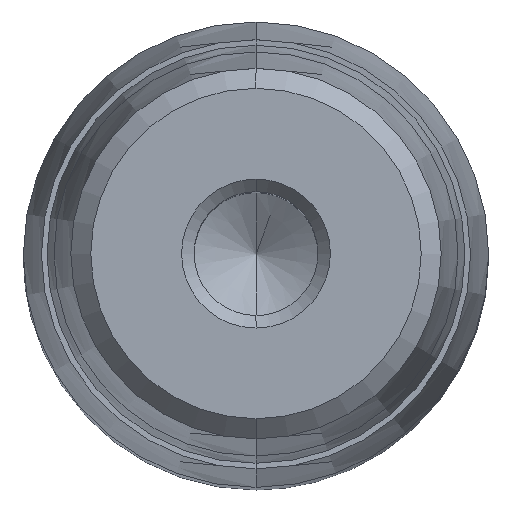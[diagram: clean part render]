
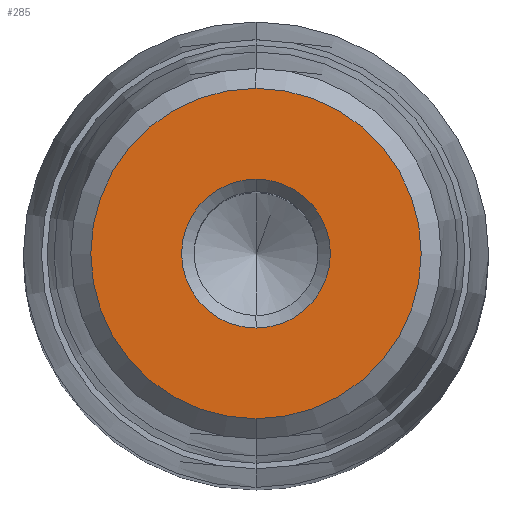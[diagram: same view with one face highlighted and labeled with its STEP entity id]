
A CAD part, top view. The second image highlights one B-rep face of the part: STEP entity #285.
In plain terms, the highlighted planar face has unit normal (0, 0, 1).
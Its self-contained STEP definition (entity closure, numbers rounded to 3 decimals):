
#164=CARTESIAN_POINT('Axis2P3D Location',(0.,0.,35.)) ;
#168=CARTESIAN_POINT('Vertex',(4.,0.,35.)) ;
#170=CARTESIAN_POINT('Vertex',(0.,-4.,35.)) ;
#173=CARTESIAN_POINT('Axis2P3D Location',(0.,0.,35.)) ;
#177=CARTESIAN_POINT('Vertex',(0.,4.,35.)) ;
#228=CARTESIAN_POINT('Axis2P3D Location',(0.,4.,35.)) ;
#233=CARTESIAN_POINT('Axis2P3D Location',(0.,0.,35.)) ;
#237=CARTESIAN_POINT('Vertex',(0.,8.875,35.)) ;
#239=CARTESIAN_POINT('Vertex',(8.875,0.,35.)) ;
#242=CARTESIAN_POINT('Axis2P3D Location',(0.,0.,35.)) ;
#246=CARTESIAN_POINT('Vertex',(-8.875,0.,35.)) ;
#249=CARTESIAN_POINT('Axis2P3D Location',(0.,0.,35.)) ;
#253=CARTESIAN_POINT('Vertex',(0.,-8.875,35.)) ;
#256=CARTESIAN_POINT('Axis2P3D Location',(0.,0.,35.)) ;
#267=CARTESIAN_POINT('Axis2P3D Location',(0.,0.,35.)) ;
#271=CARTESIAN_POINT('Vertex',(-4.,0.,35.)) ;
#274=CARTESIAN_POINT('Axis2P3D Location',(0.,0.,35.)) ;
#165=DIRECTION('Axis2P3D Direction',(-0.,0.,1.)) ;
#174=DIRECTION('Axis2P3D Direction',(-0.,0.,1.)) ;
#229=DIRECTION('Axis2P3D Direction',(0.,0.,-1.)) ;
#230=DIRECTION('Axis2P3D XDirection',(0.,1.,0.)) ;
#234=DIRECTION('Axis2P3D Direction',(0.,0.,-1.)) ;
#243=DIRECTION('Axis2P3D Direction',(0.,0.,-1.)) ;
#250=DIRECTION('Axis2P3D Direction',(0.,0.,-1.)) ;
#257=DIRECTION('Axis2P3D Direction',(0.,0.,-1.)) ;
#268=DIRECTION('Axis2P3D Direction',(0.,0.,-1.)) ;
#275=DIRECTION('Axis2P3D Direction',(0.,0.,-1.)) ;
#166=AXIS2_PLACEMENT_3D('Circle Axis2P3D',#164,#165,$) ;
#175=AXIS2_PLACEMENT_3D('Circle Axis2P3D',#173,#174,$) ;
#231=AXIS2_PLACEMENT_3D('Plane Axis2P3D',#228,#229,#230) ;
#235=AXIS2_PLACEMENT_3D('Circle Axis2P3D',#233,#234,$) ;
#244=AXIS2_PLACEMENT_3D('Circle Axis2P3D',#242,#243,$) ;
#251=AXIS2_PLACEMENT_3D('Circle Axis2P3D',#249,#250,$) ;
#258=AXIS2_PLACEMENT_3D('Circle Axis2P3D',#256,#257,$) ;
#269=AXIS2_PLACEMENT_3D('Circle Axis2P3D',#267,#268,$) ;
#276=AXIS2_PLACEMENT_3D('Circle Axis2P3D',#274,#275,$) ;
#262=ORIENTED_EDGE('',*,*,#241,.F.) ;
#263=ORIENTED_EDGE('',*,*,#248,.F.) ;
#264=ORIENTED_EDGE('',*,*,#255,.F.) ;
#265=ORIENTED_EDGE('',*,*,#260,.F.) ;
#280=ORIENTED_EDGE('',*,*,#172,.T.) ;
#281=ORIENTED_EDGE('',*,*,#273,.T.) ;
#282=ORIENTED_EDGE('',*,*,#278,.T.) ;
#283=ORIENTED_EDGE('',*,*,#179,.T.) ;
#284=FACE_BOUND('',#279,.T.) ;
#285=ADVANCED_FACE('722-25x100x123',(#266,#284),#232,.F.) ;
#167=CIRCLE('generated circle',#166,4.) ;
#176=CIRCLE('generated circle',#175,4.) ;
#236=CIRCLE('generated circle',#235,8.875) ;
#245=CIRCLE('generated circle',#244,8.875) ;
#252=CIRCLE('generated circle',#251,8.875) ;
#259=CIRCLE('generated circle',#258,8.875) ;
#270=CIRCLE('generated circle',#269,4.) ;
#277=CIRCLE('generated circle',#276,4.) ;
#172=EDGE_CURVE('',#169,#171,#167,.F.) ;
#179=EDGE_CURVE('',#178,#169,#176,.F.) ;
#241=EDGE_CURVE('',#238,#240,#236,.T.) ;
#248=EDGE_CURVE('',#247,#238,#245,.T.) ;
#255=EDGE_CURVE('',#254,#247,#252,.T.) ;
#260=EDGE_CURVE('',#240,#254,#259,.T.) ;
#273=EDGE_CURVE('',#171,#272,#270,.T.) ;
#278=EDGE_CURVE('',#272,#178,#277,.T.) ;
#261=EDGE_LOOP('',(#262,#263,#264,#265)) ;
#279=EDGE_LOOP('',(#280,#281,#282,#283)) ;
#266=FACE_OUTER_BOUND('',#261,.T.) ;
#232=PLANE('Plane',#231) ;
#169=VERTEX_POINT('',#168) ;
#171=VERTEX_POINT('',#170) ;
#178=VERTEX_POINT('',#177) ;
#238=VERTEX_POINT('',#237) ;
#240=VERTEX_POINT('',#239) ;
#247=VERTEX_POINT('',#246) ;
#254=VERTEX_POINT('',#253) ;
#272=VERTEX_POINT('',#271) ;
